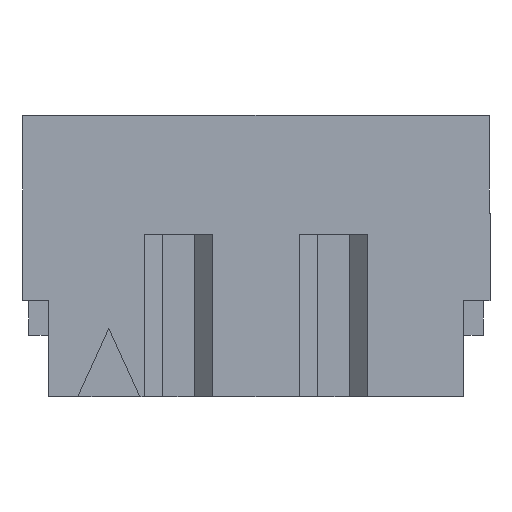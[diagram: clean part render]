
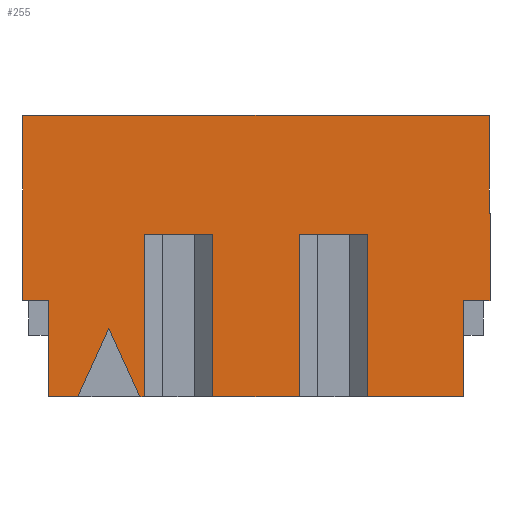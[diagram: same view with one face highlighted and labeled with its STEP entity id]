
A CAD part, front view. The second image highlights one B-rep face of the part: STEP entity #255.
In plain terms, the highlighted planar face has unit normal (0, -1, 0).
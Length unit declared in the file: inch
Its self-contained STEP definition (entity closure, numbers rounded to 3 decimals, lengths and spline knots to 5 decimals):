
#255=ADVANCED_FACE('',(#570),#416,.T.);
#416=PLANE('',#3138);
#570=FACE_OUTER_BOUND('',#749,.T.);
#749=EDGE_LOOP('',(#1414,#1415,#1416,#1417,#1418,#1419,#1420,#1421,#1422,
#1423,#1424,#1425,#1426,#1427,#1428,#1429,#1430,#1431,#1432,#1433,#1434,
#1435,#1436));
#1414=ORIENTED_EDGE('',*,*,#1881,.T.);
#1415=ORIENTED_EDGE('',*,*,#2207,.T.);
#1416=ORIENTED_EDGE('',*,*,#2208,.T.);
#1417=ORIENTED_EDGE('',*,*,#2209,.F.);
#1418=ORIENTED_EDGE('',*,*,#2203,.T.);
#1419=ORIENTED_EDGE('',*,*,#2196,.F.);
#1420=ORIENTED_EDGE('',*,*,#2176,.F.);
#1421=ORIENTED_EDGE('',*,*,#2182,.F.);
#1422=ORIENTED_EDGE('',*,*,#2183,.T.);
#1423=ORIENTED_EDGE('',*,*,#2174,.T.);
#1424=ORIENTED_EDGE('',*,*,#2170,.F.);
#1425=ORIENTED_EDGE('',*,*,#2188,.T.);
#1426=ORIENTED_EDGE('',*,*,#2169,.T.);
#1427=ORIENTED_EDGE('',*,*,#2166,.T.);
#1428=ORIENTED_EDGE('',*,*,#2164,.T.);
#1429=ORIENTED_EDGE('',*,*,#2187,.T.);
#1430=ORIENTED_EDGE('',*,*,#2162,.T.);
#1431=ORIENTED_EDGE('',*,*,#2159,.T.);
#1432=ORIENTED_EDGE('',*,*,#2157,.T.);
#1433=ORIENTED_EDGE('',*,*,#2186,.T.);
#1434=ORIENTED_EDGE('',*,*,#2190,.T.);
#1435=ORIENTED_EDGE('',*,*,#2195,.T.);
#1436=ORIENTED_EDGE('',*,*,#2200,.T.);
#1607=VERTEX_POINT('',#3843);
#1608=VERTEX_POINT('',#3845);
#1796=VERTEX_POINT('',#4420);
#1797=VERTEX_POINT('',#4422);
#1798=VERTEX_POINT('',#4426);
#1799=VERTEX_POINT('',#4430);
#1800=VERTEX_POINT('',#4434);
#1801=VERTEX_POINT('',#4436);
#1802=VERTEX_POINT('',#4440);
#1803=VERTEX_POINT('',#4444);
#1804=VERTEX_POINT('',#4448);
#1805=VERTEX_POINT('',#4449);
#1806=VERTEX_POINT('',#4454);
#1807=VERTEX_POINT('',#4458);
#1808=VERTEX_POINT('',#4460);
#1812=VERTEX_POINT('',#4470);
#1814=VERTEX_POINT('',#4477);
#1815=VERTEX_POINT('',#4483);
#1818=VERTEX_POINT('',#4492);
#1819=VERTEX_POINT('',#4496);
#1822=VERTEX_POINT('',#4506);
#1825=VERTEX_POINT('',#4517);
#1826=VERTEX_POINT('',#4519);
#1881=EDGE_CURVE('',#1608,#1607,#2292,.T.);
#2157=EDGE_CURVE('',#1797,#1796,#2568,.T.);
#2159=EDGE_CURVE('',#1798,#1797,#2570,.T.);
#2162=EDGE_CURVE('',#1799,#1798,#2573,.T.);
#2164=EDGE_CURVE('',#1801,#1800,#2575,.T.);
#2166=EDGE_CURVE('',#1802,#1801,#2577,.T.);
#2169=EDGE_CURVE('',#1803,#1802,#2580,.T.);
#2170=EDGE_CURVE('',#1804,#1805,#2581,.T.);
#2174=EDGE_CURVE('',#1806,#1805,#2585,.T.);
#2176=EDGE_CURVE('',#1807,#1808,#2587,.T.);
#2182=EDGE_CURVE('',#1812,#1807,#2593,.T.);
#2183=EDGE_CURVE('',#1812,#1806,#2594,.T.);
#2186=EDGE_CURVE('',#1796,#1814,#2597,.T.);
#2187=EDGE_CURVE('',#1800,#1799,#2598,.T.);
#2188=EDGE_CURVE('',#1804,#1803,#2599,.T.);
#2190=EDGE_CURVE('',#1814,#1815,#2601,.T.);
#2195=EDGE_CURVE('',#1815,#1818,#2606,.T.);
#2196=EDGE_CURVE('',#1808,#1819,#2607,.T.);
#2200=EDGE_CURVE('',#1818,#1608,#2611,.T.);
#2203=EDGE_CURVE('',#1822,#1819,#2614,.T.);
#2207=EDGE_CURVE('',#1607,#1825,#2618,.T.);
#2208=EDGE_CURVE('',#1825,#1826,#2619,.T.);
#2209=EDGE_CURVE('',#1822,#1826,#2620,.T.);
#2292=LINE('',#3844,#2648);
#2568=LINE('',#4421,#2924);
#2570=LINE('',#4425,#2926);
#2573=LINE('',#4431,#2929);
#2575=LINE('',#4435,#2931);
#2577=LINE('',#4439,#2933);
#2580=LINE('',#4445,#2936);
#2581=LINE('',#4447,#2937);
#2585=LINE('',#4455,#2941);
#2587=LINE('',#4459,#2943);
#2593=LINE('',#4471,#2949);
#2594=LINE('',#4473,#2950);
#2597=LINE('',#4478,#2953);
#2598=LINE('',#4479,#2954);
#2599=LINE('',#4480,#2955);
#2601=LINE('',#4484,#2957);
#2606=LINE('',#4493,#2962);
#2607=LINE('',#4495,#2963);
#2611=LINE('',#4502,#2967);
#2614=LINE('',#4508,#2970);
#2618=LINE('',#4516,#2974);
#2619=LINE('',#4518,#2975);
#2620=LINE('',#4520,#2976);
#2648=VECTOR('',#3168,1.);
#2924=VECTOR('',#3668,1.);
#2926=VECTOR('',#3672,1.);
#2929=VECTOR('',#3677,1.);
#2931=VECTOR('',#3681,1.);
#2933=VECTOR('',#3685,1.);
#2936=VECTOR('',#3690,1.);
#2937=VECTOR('',#3693,1.);
#2941=VECTOR('',#3699,1.);
#2943=VECTOR('',#3703,1.);
#2949=VECTOR('',#3711,1.);
#2950=VECTOR('',#3714,1.);
#2953=VECTOR('',#3717,1.);
#2954=VECTOR('',#3718,1.);
#2955=VECTOR('',#3719,1.);
#2957=VECTOR('',#3723,1.);
#2962=VECTOR('',#3730,1.);
#2963=VECTOR('',#3733,1.);
#2967=VECTOR('',#3739,1.);
#2970=VECTOR('',#3744,1.);
#2974=VECTOR('',#3752,1.);
#2975=VECTOR('',#3753,1.);
#2976=VECTOR('',#3754,1.);
#3138=AXIS2_PLACEMENT_3D('',#4521,#3755,#3756);
#3168=DIRECTION('',(-1.,0.,0.));
#3668=DIRECTION('',(0.,0.,-1.));
#3672=DIRECTION('',(1.,0.,0.));
#3677=DIRECTION('',(0.,0.,1.));
#3681=DIRECTION('',(0.,0.,-1.));
#3685=DIRECTION('',(1.,0.,0.));
#3690=DIRECTION('',(0.,0.,1.));
#3693=DIRECTION('',(-0.414,0.,0.91));
#3699=DIRECTION('',(0.414,0.,0.91));
#3703=DIRECTION('',(-1.,0.,0.));
#3711=DIRECTION('',(0.,0.,1.));
#3714=DIRECTION('',(1.,0.,0.));
#3717=DIRECTION('',(1.,0.,0.));
#3718=DIRECTION('',(1.,0.,0.));
#3719=DIRECTION('',(1.,0.,0.));
#3723=DIRECTION('',(0.,0.,1.));
#3730=DIRECTION('',(1.,0.,0.));
#3733=DIRECTION('',(0.,0.,1.));
#3739=DIRECTION('',(0.,0.,1.));
#3744=DIRECTION('',(-1.,0.,0.));
#3752=DIRECTION('',(0.,0.,1.));
#3753=DIRECTION('',(-1.,0.,0.));
#3754=DIRECTION('',(0.,0.,1.));
#3755=DIRECTION('',(0.,-1.,0.));
#3756=DIRECTION('',(0.,0.,-1.));
#3843=CARTESIAN_POINT('',(0.6015,-0.07,0.296));
#3844=CARTESIAN_POINT('',(0.225,-0.07,0.296));
#3845=CARTESIAN_POINT('',(0.6025,-0.07,0.296));
#4420=CARTESIAN_POINT('',(0.405,-0.07,0.));
#4421=CARTESIAN_POINT('',(0.405,-0.07,0.));
#4422=CARTESIAN_POINT('',(0.405,-0.07,0.262));
#4425=CARTESIAN_POINT('',(0.3245,-0.07,0.262));
#4426=CARTESIAN_POINT('',(0.295,-0.07,0.262));
#4430=CARTESIAN_POINT('',(0.295,-0.07,0.));
#4431=CARTESIAN_POINT('',(0.295,-0.07,0.262));
#4434=CARTESIAN_POINT('',(0.155,-0.07,0.));
#4435=CARTESIAN_POINT('',(0.155,-0.07,0.));
#4436=CARTESIAN_POINT('',(0.155,-0.07,0.262));
#4439=CARTESIAN_POINT('',(0.0745,-0.07,0.262));
#4440=CARTESIAN_POINT('',(0.045,-0.07,0.262));
#4444=CARTESIAN_POINT('',(0.045,-0.07,0.));
#4445=CARTESIAN_POINT('',(0.045,-0.07,0.262));
#4447=CARTESIAN_POINT('',(0.06961,-0.07,-0.07063));
#4448=CARTESIAN_POINT('',(0.0375,-0.07,0.));
#4449=CARTESIAN_POINT('',(-0.0125,-0.07,0.11));
#4454=CARTESIAN_POINT('',(-0.0625,-0.07,0.));
#4455=CARTESIAN_POINT('',(-0.0625,-0.07,0.));
#4458=CARTESIAN_POINT('',(-0.11,-0.07,0.155));
#4459=CARTESIAN_POINT('',(-0.1525,-0.07,0.155));
#4460=CARTESIAN_POINT('',(-0.1525,-0.07,0.155));
#4470=CARTESIAN_POINT('',(-0.11,-0.07,0.));
#4471=CARTESIAN_POINT('',(-0.11,-0.07,0.));
#4473=CARTESIAN_POINT('',(0.225,-0.07,0.));
#4477=CARTESIAN_POINT('',(0.56,-0.07,0.));
#4478=CARTESIAN_POINT('',(0.225,-0.07,0.));
#4479=CARTESIAN_POINT('',(0.225,-0.07,0.));
#4480=CARTESIAN_POINT('',(0.225,-0.07,0.));
#4483=CARTESIAN_POINT('',(0.56,-0.07,0.155));
#4484=CARTESIAN_POINT('',(0.56,-0.07,0.));
#4492=CARTESIAN_POINT('',(0.6025,-0.07,0.155));
#4493=CARTESIAN_POINT('',(0.6025,-0.07,0.155));
#4495=CARTESIAN_POINT('',(-0.1525,-0.07,0.155));
#4496=CARTESIAN_POINT('',(-0.1525,-0.07,0.296));
#4502=CARTESIAN_POINT('',(0.6025,-0.07,0.155));
#4506=CARTESIAN_POINT('',(-0.1515,-0.07,0.296));
#4508=CARTESIAN_POINT('',(0.225,-0.07,0.296));
#4516=CARTESIAN_POINT('',(0.6015,-0.07,0.363));
#4517=CARTESIAN_POINT('',(0.6015,-0.07,0.454));
#4518=CARTESIAN_POINT('',(0.225,-0.07,0.454));
#4519=CARTESIAN_POINT('',(-0.1515,-0.07,0.454));
#4520=CARTESIAN_POINT('',(-0.1515,-0.07,0.363));
#4521=CARTESIAN_POINT('',(0.225,-0.07,0.));
